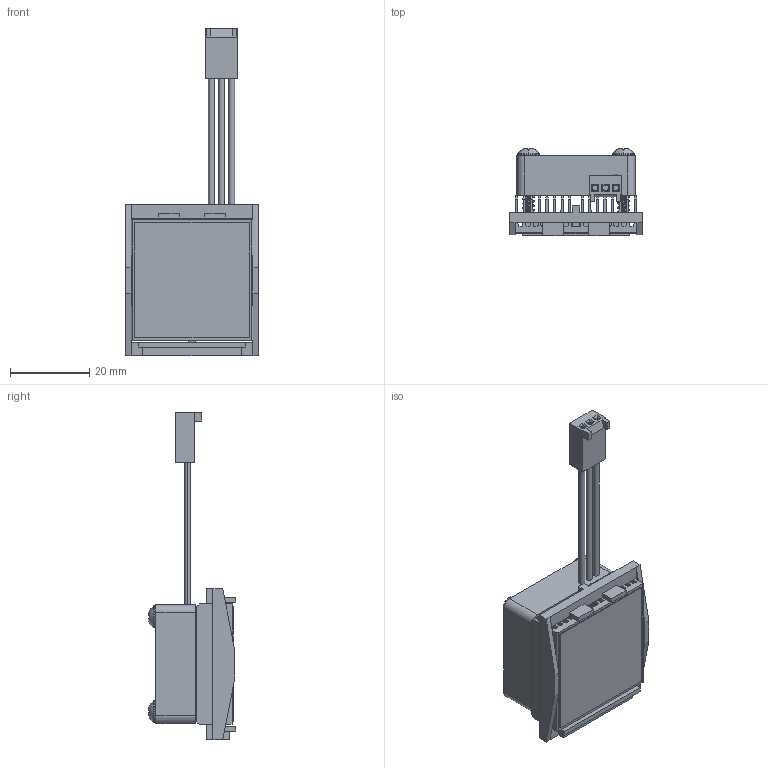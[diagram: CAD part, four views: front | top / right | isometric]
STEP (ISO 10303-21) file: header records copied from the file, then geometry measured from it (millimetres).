
FILE_DESCRIPTION (( 'STEP AP214' ), '1' );
FILE_NAME ('FI31-1.4+O.STEP', '2023-03-07T19:11:42', ( '' ), ( '' ), 'SwSTEP 2.0', 'SolidWorks 2020', '' );
FILE_SCHEMA (( 'AUTOMOTIVE_DESIGN' ));
Length unit declared in the file: millimetre
Products named in the file (1): FI31-1.4+O
Bounding box: 33.6 x 22.13 x 82.69 mm (x, y, z)
Volume: 10351.3 mm3; surface area: 20132 mm2
Topology: 8 solids, 8 shells, 832 faces, 2389 edges, 1580 vertices
Faces by surface type: plane 329, cylinder 305, bspline 154, cone 44
Entity records: 44120 total; most frequent: CARTESIAN_POINT 15848, ORIENTED_EDGE 4778, DIRECTION 3123, EDGE_CURVE 2389, VERTEX_POINT 1580, VECTOR 1233, LINE 1233, AXIS2_PLACEMENT_3D 945
